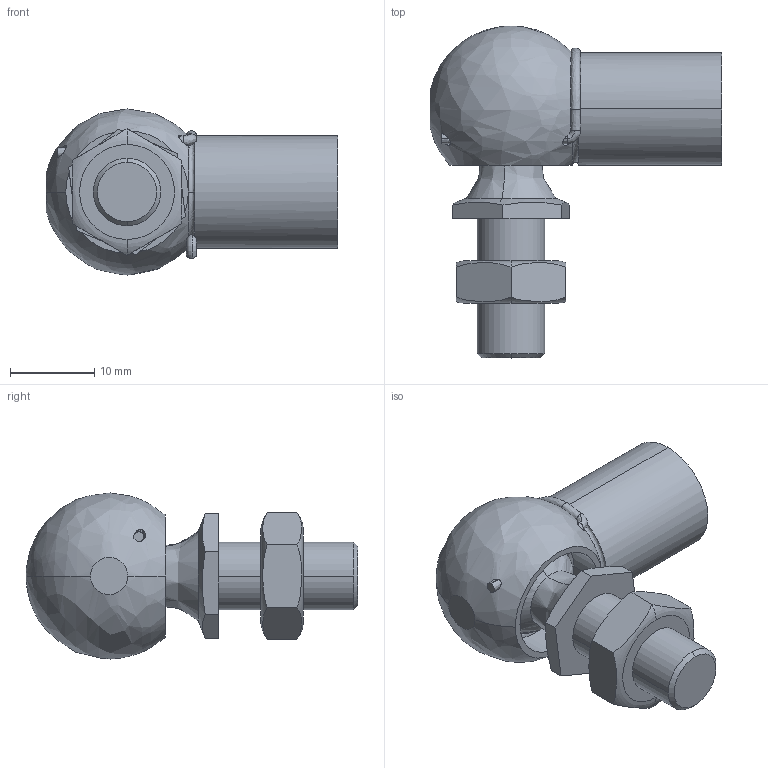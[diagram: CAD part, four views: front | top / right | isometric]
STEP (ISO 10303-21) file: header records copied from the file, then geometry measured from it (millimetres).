
FILE_DESCRIPTION (( 'STEP AP214' ), '1' );
FILE_NAME ('13.C13M8L25.STEP', '2017-11-22T12:33:42', ( '' ), ( '' ), 'SwSTEP 2.0', 'SolidWorks 2016', '' );
FILE_SCHEMA (( 'AUTOMOTIVE_DESIGN' ));
Length unit declared in the file: millimetre
Products named in the file (1): 13.C13M8L25
Bounding box: 34.6 x 39.35 x 19.7 mm (x, y, z)
Volume: 7075.3 mm3; surface area: 4336.3 mm2
Topology: 2 solids, 2 shells, 87 faces, 236 edges, 147 vertices
Faces by surface type: plane 32, bspline 31, cylinder 12, cone 8, torus 4
Entity records: 9357 total; most frequent: CARTESIAN_POINT 6776, ORIENTED_EDGE 456, DIRECTION 344, EDGE_CURVE 228, VERTEX_POINT 147, AXIS2_PLACEMENT_3D 143, EDGE_LOOP 95, FACE_OUTER_BOUND 87
